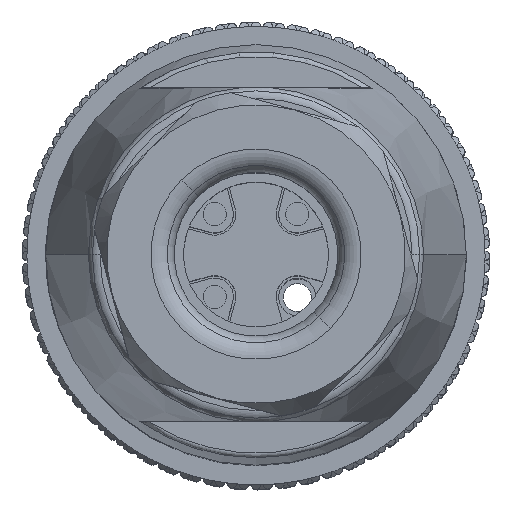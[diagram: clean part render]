
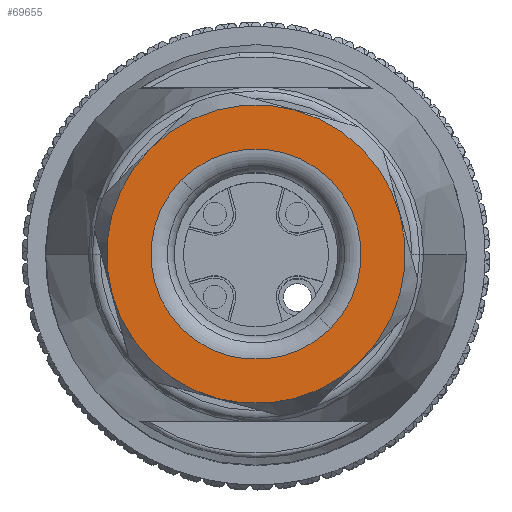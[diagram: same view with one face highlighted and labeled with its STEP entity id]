
A CAD part, top view. The second image highlights one B-rep face of the part: STEP entity #69655.
In plain terms, the highlighted planar face has unit normal (0, 0, 1).
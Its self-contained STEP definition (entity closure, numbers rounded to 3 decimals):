
#66641=CARTESIAN_POINT('',(0.,0.,
39.475));
#66642=DIRECTION('',(0.,0.,-1.));
#66643=DIRECTION('',(0.707,-0.707,0.));
#66644=AXIS2_PLACEMENT_3D('',#66641,#66642,#66643);
#66646=CARTESIAN_POINT('',(0.,0.,
39.475));
#66647=DIRECTION('',(0.,0.,-1.));
#66648=DIRECTION('',(-0.707,0.707,0.));
#66649=AXIS2_PLACEMENT_3D('',#66646,#66647,#66648);
#66651=CARTESIAN_POINT('',(0.,0.,
39.475));
#66652=DIRECTION('',(0.,0.,1.));
#66653=DIRECTION('',(-0.707,0.707,0.));
#66654=AXIS2_PLACEMENT_3D('',#66651,#66652,#66653);
#66656=CARTESIAN_POINT('',(0.,0.,
39.475));
#66657=DIRECTION('',(0.,0.,1.));
#66658=DIRECTION('',(0.707,-0.707,0.));
#66659=AXIS2_PLACEMENT_3D('',#66656,#66657,#66658);
#69487=CARTESIAN_POINT('',(-4.518,4.518,
39.475));
#69489=VERTEX_POINT('',#69487);
#69491=CARTESIAN_POINT('',(4.518,-4.518,
39.475));
#69493=VERTEX_POINT('',#69491);
#69503=CARTESIAN_POINT('',(-3.182,3.182,
39.475));
#69504=VERTEX_POINT('',#69503);
#69505=CARTESIAN_POINT('',(3.182,-3.182,
39.475));
#69506=VERTEX_POINT('',#69505);
#69640=CARTESIAN_POINT('',(0.,0.,
39.475));
#69641=DIRECTION('',(0.,0.,-1.));
#69642=DIRECTION('',(0.707,-0.707,0.));
#69643=AXIS2_PLACEMENT_3D('',#69640,#69641,#69642);
#69644=PLANE('',#69643);
#69645=ORIENTED_EDGE('',*,*,#69622,.F.);
#69646=ORIENTED_EDGE('',*,*,#69575,.F.);
#69647=EDGE_LOOP('',(#69645,#69646));
#69648=FACE_OUTER_BOUND('',#69647,.F.);
#69650=ORIENTED_EDGE('',*,*,#69649,.F.);
#69652=ORIENTED_EDGE('',*,*,#69651,.F.);
#69653=EDGE_LOOP('',(#69650,#69652));
#69654=FACE_BOUND('',#69653,.F.);
#69655=ADVANCED_FACE('',(#69648,#69654),#69644,.F.);
#66645=CIRCLE('',#66644,4.5);
#66650=CIRCLE('',#66649,4.5);
#66655=CIRCLE('',#66654,6.39);
#66660=CIRCLE('',#66659,6.39);
#69575=EDGE_CURVE('',#69493,#69489,#66660,.T.);
#69622=EDGE_CURVE('',#69489,#69493,#66655,.T.);
#69649=EDGE_CURVE('',#69506,#69504,#66645,.T.);
#69651=EDGE_CURVE('',#69504,#69506,#66650,.T.);
